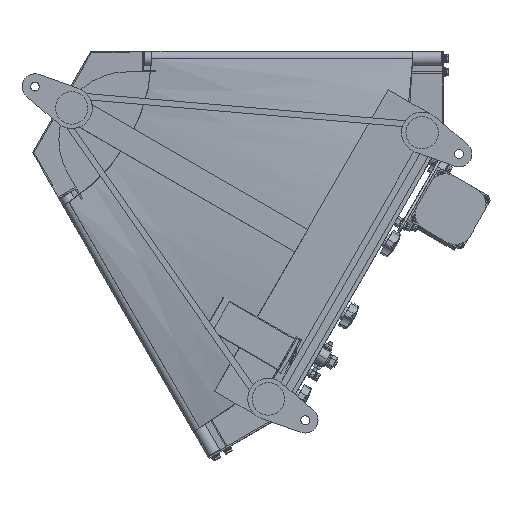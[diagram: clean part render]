
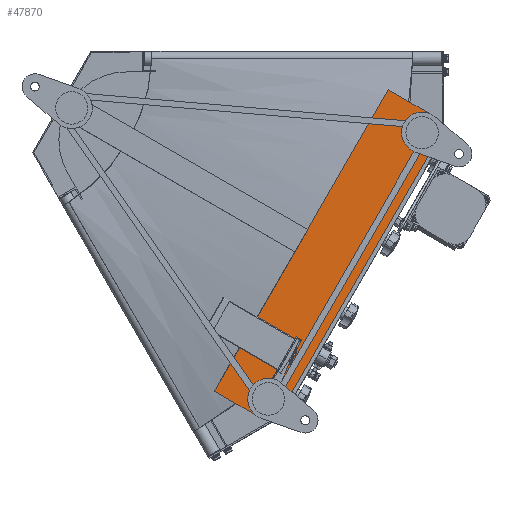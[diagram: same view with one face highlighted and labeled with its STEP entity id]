
A CAD part, front view. The second image highlights one B-rep face of the part: STEP entity #47870.
In plain terms, the highlighted planar face has unit normal (0, -1, 0).
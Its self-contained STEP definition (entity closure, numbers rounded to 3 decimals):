
#2592 = DIRECTION ( 'NONE',  ( 0.5, 0., 0.866 ) ) ;
#2657 = EDGE_LOOP ( 'NONE', ( #12080, #50134, #27972, #32442, #16214, #29002 ) ) ;
#6459 = CARTESIAN_POINT ( 'NONE',  ( 456.952, -167.5, -526.515 ) ) ;
#7167 = VERTEX_POINT ( 'NONE', #39771 ) ;
#7890 = EDGE_CURVE ( 'NONE', #18688, #52276, #35177, .T. ) ;
#9439 = VECTOR ( 'NONE', #30330, 1000. ) ;
#9703 = VECTOR ( 'NONE', #2592, 1000. ) ;
#10107 = DIRECTION ( 'NONE',  ( 0., 1., 0. ) ) ;
#10110 = LINE ( 'NONE', #18652, #26156 ) ;
#10400 = DIRECTION ( 'NONE',  ( 0.866, 0., -0.5 ) ) ;
#11811 = CARTESIAN_POINT ( 'NONE',  ( 415.971, -167.5, -537.496 ) ) ;
#12080 = ORIENTED_EDGE ( 'NONE', *, *, #39968, .F. ) ;
#14305 = DIRECTION ( 'NONE',  ( -0.5, 0., -0.866 ) ) ;
#14709 = FACE_OUTER_BOUND ( 'NONE', #2657, .T. ) ;
#15059 = LINE ( 'NONE', #6459, #24042 ) ;
#16214 = ORIENTED_EDGE ( 'NONE', *, *, #7890, .F. ) ;
#16609 = DIRECTION ( 'NONE',  ( 0.259, 0., -0.966 ) ) ;
#17665 = PLANE ( 'NONE',  #21200 ) ;
#18652 = CARTESIAN_POINT ( 'NONE',  ( 612.849, -167.5, -56.493 ) ) ;
#18688 = VERTEX_POINT ( 'NONE', #37544 ) ;
#20633 = LINE ( 'NONE', #47193, #9703 ) ;
#21200 = AXIS2_PLACEMENT_3D ( 'NONE', #42621, #10107, #22829 ) ;
#22165 = EDGE_CURVE ( 'NONE', #7167, #24661, #10110, .T. ) ;
#22829 = DIRECTION ( 'NONE',  ( 0.208, 0., 0.978 ) ) ;
#24042 = VECTOR ( 'NONE', #14305, 1000. ) ;
#24661 = VERTEX_POINT ( 'NONE', #36827 ) ;
#26156 = VECTOR ( 'NONE', #10400, 1000. ) ;
#27746 = CARTESIAN_POINT ( 'NONE',  ( 355.349, -167.5, -502.496 ) ) ;
#27972 = ORIENTED_EDGE ( 'NONE', *, *, #40762, .F. ) ;
#28702 = VERTEX_POINT ( 'NONE', #46596 ) ;
#29002 = ORIENTED_EDGE ( 'NONE', *, *, #38752, .F. ) ;
#29014 = LINE ( 'NONE', #32127, #41736 ) ;
#29801 = CARTESIAN_POINT ( 'NONE',  ( 355.349, -167.5, -502.496 ) ) ;
#30330 = DIRECTION ( 'NONE',  ( -0.866, 0., 0.5 ) ) ;
#32127 = CARTESIAN_POINT ( 'NONE',  ( 684.452, -167.5, -132.474 ) ) ;
#32442 = ORIENTED_EDGE ( 'NONE', *, *, #36270, .F. ) ;
#32738 = CARTESIAN_POINT ( 'NONE',  ( 415.971, -167.5, -537.496 ) ) ;
#33824 = VERTEX_POINT ( 'NONE', #27746 ) ;
#35177 = LINE ( 'NONE', #32738, #40944 ) ;
#36270 = EDGE_CURVE ( 'NONE', #52276, #33824, #46539, .T. ) ;
#36827 = CARTESIAN_POINT ( 'NONE',  ( 673.471, -167.5, -91.493 ) ) ;
#37544 = CARTESIAN_POINT ( 'NONE',  ( 456.952, -167.5, -526.515 ) ) ;
#38752 = EDGE_CURVE ( 'NONE', #28702, #18688, #15059, .T. ) ;
#39771 = CARTESIAN_POINT ( 'NONE',  ( 612.849, -167.5, -56.493 ) ) ;
#39968 = EDGE_CURVE ( 'NONE', #24661, #28702, #29014, .T. ) ;
#40608 = DIRECTION ( 'NONE',  ( -0.966, 0., -0.259 ) ) ;
#40762 = EDGE_CURVE ( 'NONE', #33824, #7167, #20633, .T. ) ;
#40944 = VECTOR ( 'NONE', #40608, 1000. ) ;
#41736 = VECTOR ( 'NONE', #16609, 1000. ) ;
#42621 = CARTESIAN_POINT ( 'NONE',  ( 95.687, -167.5, -55.245 ) ) ;
#46539 = LINE ( 'NONE', #29801, #9439 ) ;
#46596 = CARTESIAN_POINT ( 'NONE',  ( 684.452, -167.5, -132.474 ) ) ;
#47193 = CARTESIAN_POINT ( 'NONE',  ( 355.349, -167.5, -502.496 ) ) ;
#47870 = ADVANCED_FACE ( 'NONE', ( #14709 ), #17665, .F. ) ;
#50134 = ORIENTED_EDGE ( 'NONE', *, *, #22165, .F. ) ;
#52276 = VERTEX_POINT ( 'NONE', #11811 ) ;
